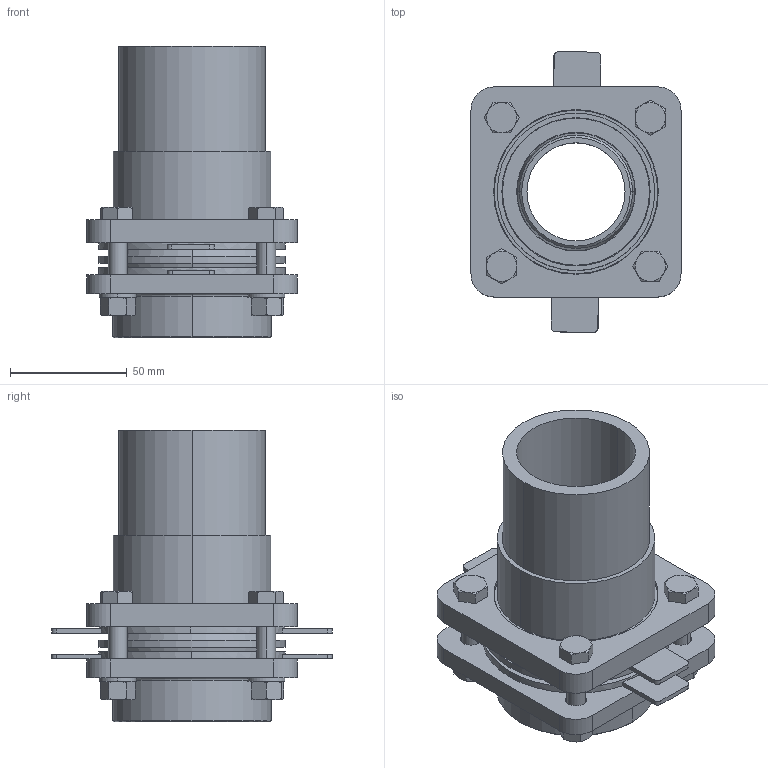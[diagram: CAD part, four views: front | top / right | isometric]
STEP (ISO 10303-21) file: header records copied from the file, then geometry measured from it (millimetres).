
FILE_DESCRIPTION (( 'STEP AP203' ), '1' );
FILE_NAME ('KP_C16-63F.step', '2011-08-08T12:00:47', ( '' ), ( '' ), 'SwSTEP 2.0', 'SolidWorks 2011', '' );
FILE_SCHEMA (( 'CONFIG_CONTROL_DESIGN' ));
Length unit declared in the file: millimetre
Products named in the file (1): KP_C16-63F
Bounding box: 90 x 120.17 x 125 mm (x, y, z)
Volume: 270988.6 mm3; surface area: 114534.5 mm2
Topology: 1 solids, 1 shells, 380 faces, 879 edges, 546 vertices
Faces by surface type: cone 129, plane 126, cylinder 106, torus 14, bspline 5
Entity records: 20848 total; most frequent: CARTESIAN_POINT 12250, DIRECTION 1778, ORIENTED_EDGE 1758, EDGE_CURVE 879, AXIS2_PLACEMENT_3D 731, VERTEX_POINT 546, EDGE_LOOP 435, FACE_OUTER_BOUND 380
